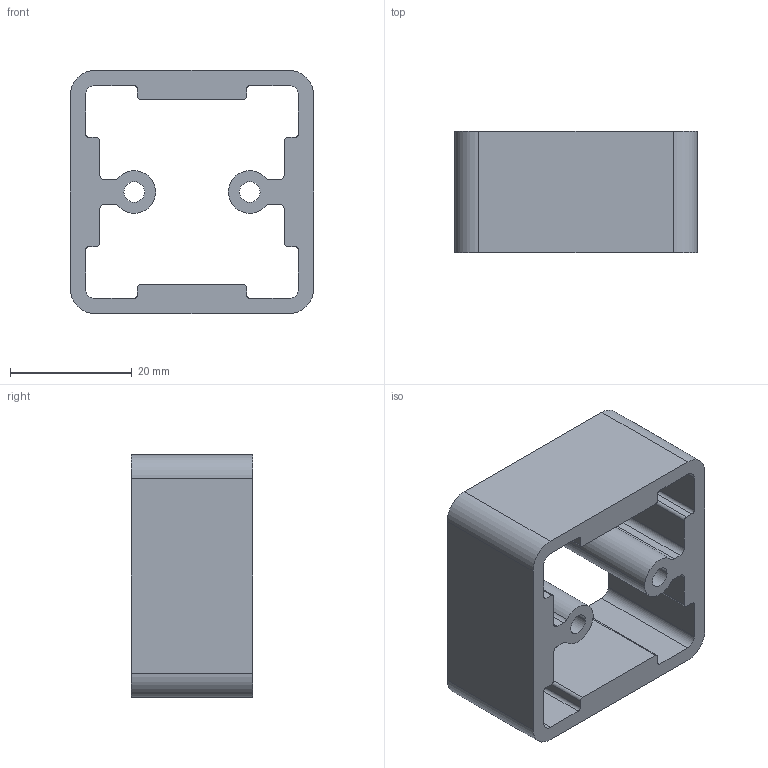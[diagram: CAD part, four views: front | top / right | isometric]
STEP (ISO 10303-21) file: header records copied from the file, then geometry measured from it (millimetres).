
FILE_DESCRIPTION(('STEP AP214'),'1');
FILE_NAME('cctmp_BE70E73F-BCA7-4199-929C-E22E2884D3C5_2020_12_16_17_58_46_0482..stp','2020-12-16T16:58:46',('item Industrietechnik GmbH'),('CADClick - www.CADClick.com'),'Spatial InterOp 3D',' ','unknown authorization');
FILE_SCHEMA(('AUTOMOTIVE_DESIGN'));
Length unit declared in the file: millimetre
Products named in the file (1): item_0044050_Telescope Profile 8 40x40_L=20
Bounding box: 40 x 20 x 40 mm (x, y, z)
Volume: 12092 mm3; surface area: 8478.9 mm2
Topology: 1 solids, 1 shells, 72 faces, 210 edges, 140 vertices
Faces by surface type: cylinder 40, plane 32
Entity records: 3026 total; most frequent: DIRECTION 436, CARTESIAN_POINT 423, ORIENTED_EDGE 420, EDGE_CURVE 210, AXIS2_PLACEMENT_3D 153, VERTEX_POINT 140, LINE 130, VECTOR 130
